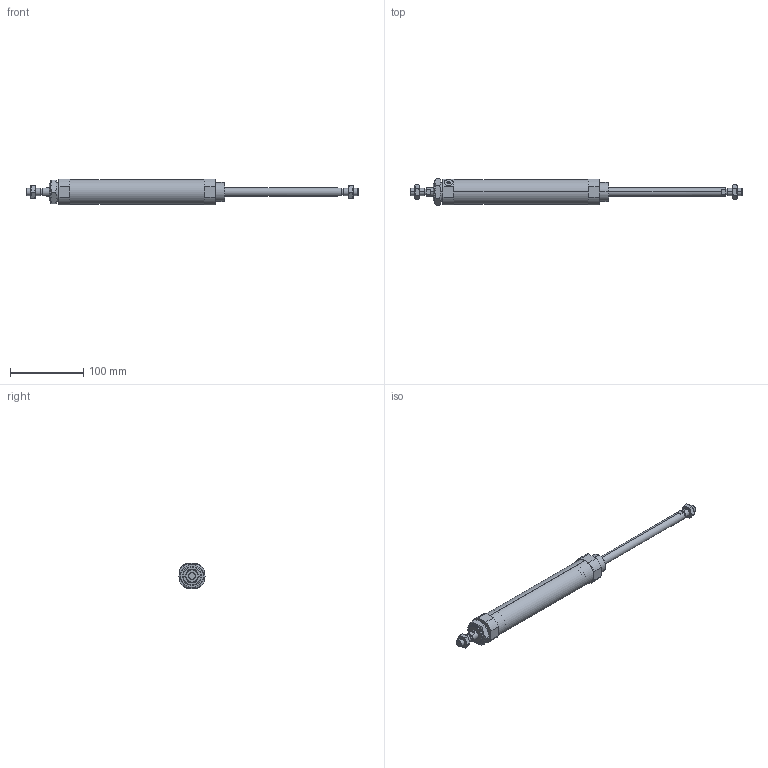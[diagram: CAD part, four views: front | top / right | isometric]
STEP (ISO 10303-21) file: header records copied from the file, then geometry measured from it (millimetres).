
FILE_DESCRIPTION (( 'STEP AP203' ), '1' );
FILE_NAME ('CSM2B32-150-P.STEP', '2020-07-20T16:47:16', ( '' ), ( '' ), 'SwSTEP 2.0', 'SolidWorks 2019', '' );
FILE_SCHEMA (( 'CONFIG_CONTROL_DESIGN' ));
Length unit declared in the file: millimetre
Products named in the file (1): CSM2B32-150-P
Bounding box: 454 x 36.95 x 34.5 mm (x, y, z)
Volume: 133221.6 mm3; surface area: 70518.5 mm2
Topology: 5 solids, 5 shells, 149 faces, 346 edges, 217 vertices
Faces by surface type: plane 57, cylinder 48, cone 44
Entity records: 5397 total; most frequent: CARTESIAN_POINT 1949, DIRECTION 714, ORIENTED_EDGE 680, EDGE_CURVE 340, AXIS2_PLACEMENT_3D 282, VERTEX_POINT 217, EDGE_LOOP 173, VECTOR 150
